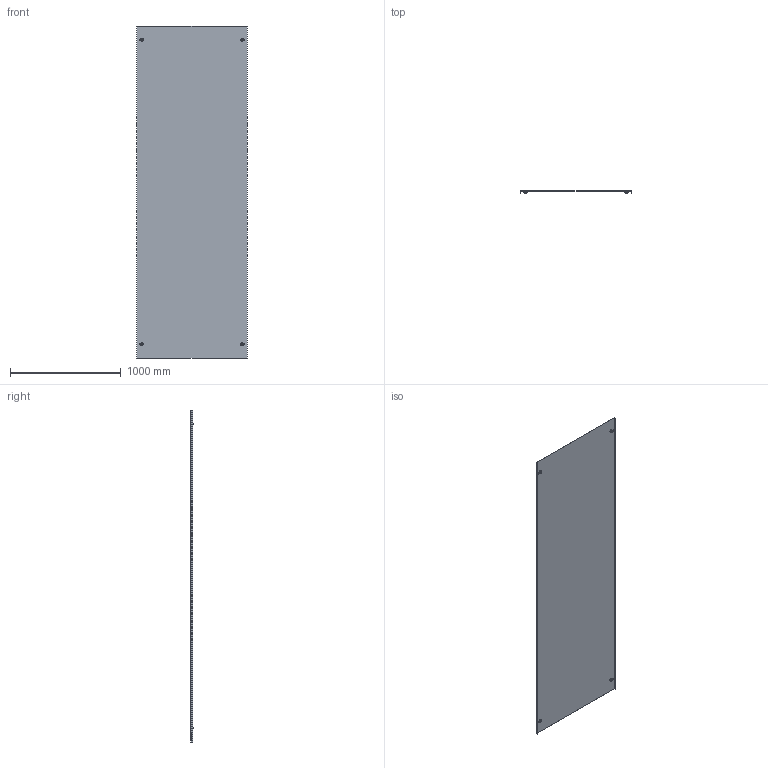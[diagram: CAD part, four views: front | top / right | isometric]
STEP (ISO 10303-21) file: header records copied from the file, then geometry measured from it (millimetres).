
FILE_DESCRIPTION (( 'STEP AP203' ), '1' );
FILE_NAME ('UKS300.STEP', '2015-04-01T12:58:22', ( '' ), ( '' ), 'SwSTEP 2.0', 'SolidWorks 2014', '' );
FILE_SCHEMA (( 'CONFIG_CONTROL_DESIGN' ));
Length unit declared in the file: millimetre
Products named in the file (8): êðûøêà  ñ ôèêñàòîðîì 1,5_1000; âòóëêà íàðóæíÿÿ; UKS300; âòóëêà âíóòðÿíÿÿ_¯®¤ ®â¢¥àâªã; hex flange bolt_din_DIN 6921 - M5 x 10 x 10-C; Hex Nut 5929_gost_ƒ ©ª  M16 ƒŽ‘’ 5929-70; 瀁僿鳻; 鐓膲僗闉
Assembly tree (10 placements, depth 3):
  UKS300
    êðûøêà  ñ ôèêñàòîðîì 1,5_1000
    鐓膲僗闉  x4
      âòóëêà íàðóæíÿÿ
      âòóëêà âíóòðÿíÿÿ_¯®¤ ®â¢¥àâªã
      hex flange bolt_din_DIN 6921 - M5 x 10 x 10-C
      Hex Nut 5929_gost_ƒ ©ª  M16 ƒŽ‘’ 5929-70
      瀁僿鳻
Bounding box: 1003 x 24.5 x 3000 mm (x, y, z)
Volume: 4664010.4 mm3; surface area: 6220160.1 mm2
Topology: 21 solids, 21 shells, 558 faces, 1248 edges, 768 vertices
Faces by surface type: plane 318, cylinder 144, cone 64, bspline 24, torus 8
Entity records: 6412 total; most frequent: CARTESIAN_POINT 1271, DIRECTION 906, ORIENTED_EDGE 852, EDGE_CURVE 426, AXIS2_PLACEMENT_3D 333, VERTEX_POINT 264, LINE 240, VECTOR 240
